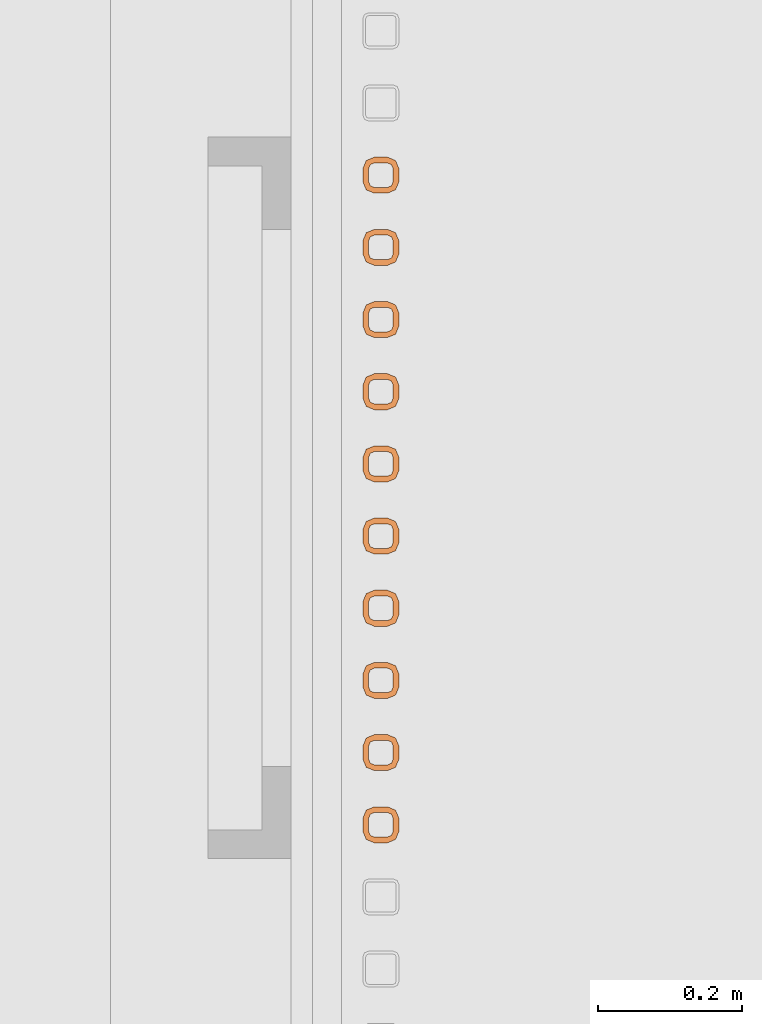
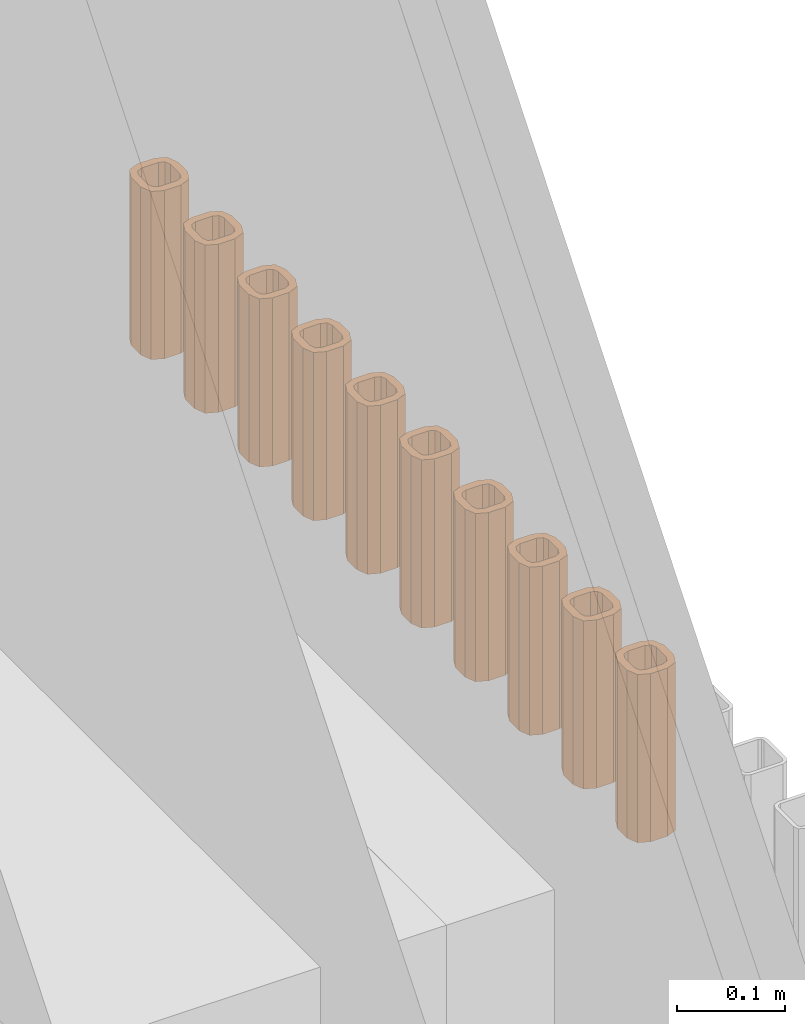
# One storey, part 92 of 112: 10 proxies.
"""IFC2X3 building model written with IfcOpenShell, lengths in millimetres."""

from ifc_helpers import new_model, entity, si_unit, converted_unit, derived_unit, money_unit, direction, frame, origin_with_axes, place, context, subcontext, project, spatial, faceted_brep, source, transform, mapped, material, type_object, element, save


model = new_model("IFC2X3")

# Units and contexts
model_context = context("Model", 3, precision=0.01, world=origin_with_axes(), true_north=direction((0.0, 1.0)))
body_context = subcontext(model_context, "Body", "Model", "MODEL_VIEW")
ifc_project = project(units=[si_unit("LENGTHUNIT", "METRE", prefix="MILLI"), si_unit("AREAUNIT", "SQUARE_METRE"), si_unit("VOLUMEUNIT", "CUBIC_METRE"), converted_unit("PLANEANGLEUNIT", "DEGREE", entity("IfcPlaneAngleMeasure", 0.0174532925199), si_unit("PLANEANGLEUNIT", "RADIAN"), dimensions=[0, 0, 0, 0, 0, 0, 0]), si_unit("SOLIDANGLEUNIT", "STERADIAN"), money_unit("EUR"), converted_unit("TIMEUNIT", "Year", entity("IfcTimeMeasure", 31556926.0), si_unit("TIMEUNIT", "SECOND"), dimensions=[0, 0, 1, 0, 0, 0, 0]), si_unit("MASSUNIT", "GRAM", prefix="KILO"), si_unit("THERMODYNAMICTEMPERATUREUNIT", "DEGREE_CELSIUS"), si_unit("LUMINOUSINTENSITYUNIT", "LUMEN"), si_unit("ENERGYUNIT", "JOULE", prefix="MEGA"), derived_unit("THERMALCONDUCTANCEUNIT", [(si_unit("POWERUNIT", "WATT"), 1), (si_unit("LENGTHUNIT", "METRE"), -1), (si_unit("THERMODYNAMICTEMPERATUREUNIT", "KELVIN"), -1)]), derived_unit("SPECIFICHEATCAPACITYUNIT", [(si_unit("ENERGYUNIT", "JOULE"), 1), (si_unit("MASSUNIT", "GRAM", prefix="KILO"), -1), (si_unit("THERMODYNAMICTEMPERATUREUNIT", "KELVIN"), -1)]), derived_unit("MASSDENSITYUNIT", [(si_unit("MASSUNIT", "GRAM", prefix="KILO"), 1), (si_unit("VOLUMEUNIT", "CUBIC_METRE"), -1)])], contexts=[model_context])

# Site, building, storey
site_placement = place(None, origin_with_axes())
site = spatial("IfcSite", under=ifc_project, at=site_placement, Name="Politse- ja Piirivalveameti ning Päästeameti ühishoone", CompositionType="ELEMENT")
building_placement = place(site_placement, origin_with_axes())
building = spatial("IfcBuilding", under=site, at=building_placement, Name="Politse- ja Piirivalveameti ning Päästeameti ühishoone", CompositionType="ELEMENT")
storey_placement = place(building_placement, origin_with_axes())
storey = spatial("IfcBuildingStorey", under=building, at=storey_placement, Name="Esimene korrus", CompositionType="ELEMENT", Elevation=0.0)

# Proxies
ifc_material = material(Name="ET-05_Teras")
building_element_proxy_type = type_object("IfcBuildingElementProxyType", Name="SHS Cold-Formed Column 23", PredefinedType="NOTDEFINED")
shared_shape = source(origin_with_axes(), body_context, "Body", "Brep", [
    faceted_brep([(-9.0, -25.0, 0.0), (9.0, -25.0, 0.0), (9.0, -25.0, 190.0), (-9.0, -25.0, 190.0), (-20.313708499, -20.313708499, 0.0), (-25.0, -9.0, 0.0), (-25.0, 9.0, 0.0), (-20.313708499, 20.313708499, 0.0), (-9.0, 25.0, 0.0), (9.0, 25.0, 0.0), (20.313708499, 20.313708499, 0.0), (25.0, 9.0, 0.0), (25.0, -9.0, 0.0), (20.313708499, -20.313708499, 0.0), (-9.0, -17.0, 0.0), (9.0, -17.0, 0.0), (14.6568542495, -14.6568542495, 0.0), (17.0, -9.0, 0.0), (17.0, 9.0, 0.0), (14.6568542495, 14.6568542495, 0.0), (9.0, 17.0, 0.0), (-9.0, 17.0, 0.0), (-14.6568542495, 14.6568542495, 0.0), (-17.0, 9.0, 0.0), (-17.0, -9.0, 0.0), (-14.6568542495, -14.6568542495, 0.0), (20.313708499, -20.313708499, 190.0), (25.0, -9.0, 190.0), (25.0, 9.0, 190.0), (20.313708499, 20.313708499, 190.0), (9.0, 25.0, 190.0), (-9.0, 25.0, 190.0), (-20.313708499, 20.313708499, 190.0), (-25.0, 9.0, 190.0), (-25.0, -9.0, 190.0), (-20.313708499, -20.313708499, 190.0), (-9.0, -17.0, 190.0), (-14.6568542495, -14.6568542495, 190.0), (-17.0, -9.0, 190.0), (-17.0, 9.0, 190.0), (-14.6568542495, 14.6568542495, 190.0), (-9.0, 17.0, 190.0), (9.0, 17.0, 190.0), (14.6568542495, 14.6568542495, 190.0), (17.0, 9.0, 190.0), (17.0, -9.0, 190.0), (14.6568542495, -14.6568542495, 190.0), (9.0, -17.0, 190.0)], [[[0, 1, 2, 3]], [[0, 4, 5, 6, 7, 8, 9, 10, 11, 12, 13, 1], [14, 15, 16, 17, 18, 19, 20, 21, 22, 23, 24, 25]], [[1, 13, 26, 2]], [[3, 2, 26, 27, 28, 29, 30, 31, 32, 33, 34, 35], [36, 37, 38, 39, 40, 41, 42, 43, 44, 45, 46, 47]], [[4, 0, 3, 35]], [[5, 4, 35, 34]], [[6, 5, 34, 33]], [[7, 6, 33, 32]], [[8, 7, 32, 31]], [[9, 8, 31, 30]], [[10, 9, 30, 29]], [[11, 10, 29, 28]], [[12, 11, 28, 27]], [[13, 12, 27, 26]], [[15, 14, 36, 47]], [[16, 15, 47, 46]], [[17, 16, 46, 45]], [[18, 17, 45, 44]], [[19, 18, 44, 43]], [[20, 19, 43, 42]], [[21, 20, 42, 41]], [[22, 21, 41, 40]], [[23, 22, 40, 39]], [[24, 23, 39, 38]], [[25, 24, 38, 37]], [[14, 25, 37, 36]]]),
])
for number, where, z_axis, x_axis in (
    (1, (68635.2095212, 10750.0702441, 2600.0), (0.0, 0.0, 1.0), (1.0, 0.0, 0.0)),
    (2, (68635.2095212, 10650.0702441, 2600.0), (0.0, 0.0, 1.0), (1.0, 0.0, 0.0)),
    (3, (68635.2095212, 10550.0702441, 2600.0), (0.0, 0.0, 1.0), (1.0, 0.0, 0.0)),
    (4, (68635.2095212, 10450.0702441, 2600.0), (0.0, 0.0, 1.0), (1.0, 0.0, 0.0)),
    (5, (68635.2095212, 10350.0702441, 2600.0), (0.0, 0.0, 1.0), (1.0, 0.0, 0.0)),
    (6, (68635.2095212, 10250.0702441, 2600.0), (0.0, 0.0, 1.0), (1.0, 0.0, 0.0)),
    (7, (68635.2095212, 10150.0702441, 2600.0), (0.0, 0.0, 1.0), (1.0, 0.0, 0.0)),
    (8, (68635.2095212, 10050.0702441, 2600.0), (0.0, 0.0, 1.0), (1.0, 0.0, 0.0)),
    (9, (68635.2095212, 9950.07024411, 2600.0), (0.0, 0.0, 1.0), (1.0, 0.0, 0.0)),
    (10, (68635.2095212, 9850.07024411, 2600.0), (0.0, 0.0, 1.0), (1.0, 0.0, 0.0)),
):
    element("IfcBuildingElementProxy", number, at=place(storey_placement, frame(where, z_axis=z_axis, x_axis=x_axis)), inside=storey, type_object=building_element_proxy_type, material=ifc_material, Name="Fassaadiribid", context=body_context, shape_type="MappedRepresentation", body=[
        mapped(shared_shape, transform((0.0, 0.0, 0.0))),
    ])

save(model, "model.ifc")
